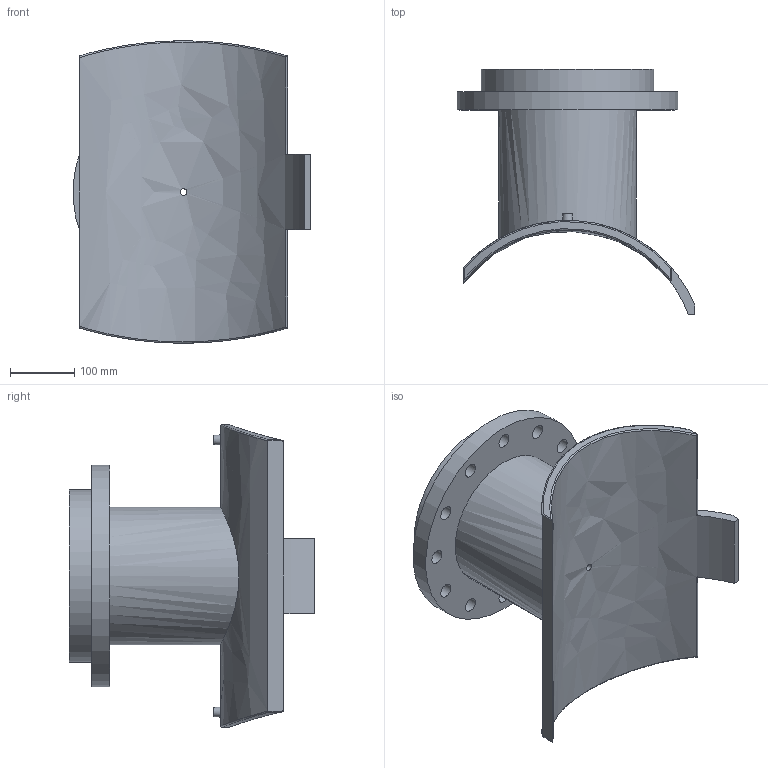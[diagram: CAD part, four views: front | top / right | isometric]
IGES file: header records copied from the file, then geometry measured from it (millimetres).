
Global section: file name: 495903400200T; native system: Autodesk Inventor 2019; preprocessor: unknown; author: KIM; date: 20240403.210044; units: millimetre
Bounding box: 369.58 x 381.21 x 469.84 mm (x, y, z)
Volume: 8582951.3 mm3; surface area: 835162 mm2
Topology: 1 solids, 1 shells, 62 faces, 163 edges, 126 vertices
Faces by surface type: bspline 62
